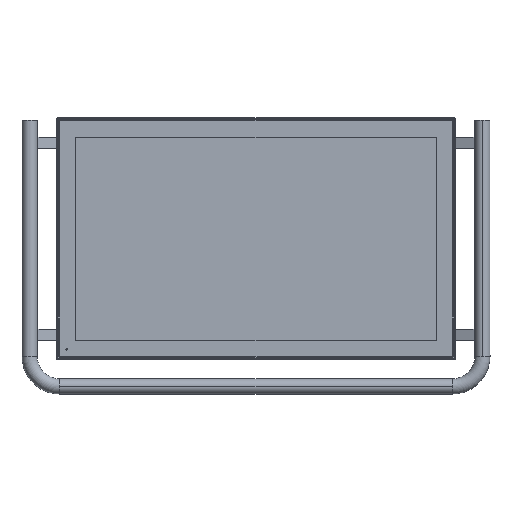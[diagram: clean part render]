
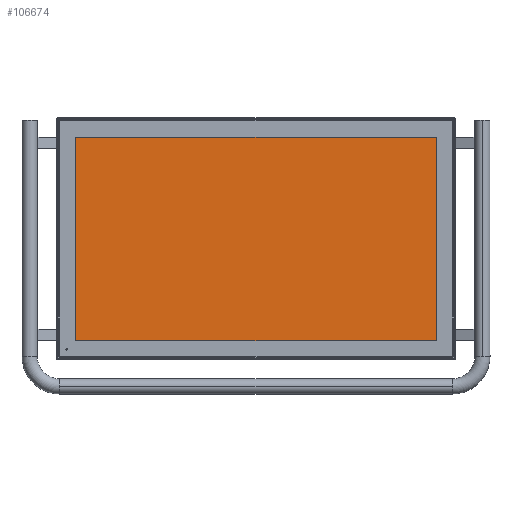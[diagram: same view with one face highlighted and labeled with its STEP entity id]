
A CAD part, top view. The second image highlights one B-rep face of the part: STEP entity #106674.
In plain terms, the highlighted planar face has unit normal (0, 0, 1) as drawn and (0, 1, 0) by its records, which use the part's own axes.
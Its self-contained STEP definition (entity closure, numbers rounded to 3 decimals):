
#577 = DIRECTION ( 'NONE',  ( 0., 0., 1. ) ) ;
#2332 = ORIENTED_EDGE ( 'NONE', *, *, #117453, .T. ) ;
#14828 = CARTESIAN_POINT ( 'NONE',  ( -238.92, 2.7, -134.655 ) ) ;
#16649 = EDGE_CURVE ( 'NONE', #85051, #41906, #135246, .T. ) ;
#27764 = CARTESIAN_POINT ( 'NONE',  ( 238.92, 2.7, 134.655 ) ) ;
#34998 = EDGE_CURVE ( 'NONE', #101965, #85051, #148779, .T. ) ;
#35187 = CARTESIAN_POINT ( 'NONE',  ( 238.92, 2.7, -134.655 ) ) ;
#38198 = CARTESIAN_POINT ( 'NONE',  ( 238.92, 2.7, -134.655 ) ) ;
#41906 = VERTEX_POINT ( 'NONE', #27764 ) ;
#42306 = CARTESIAN_POINT ( 'NONE',  ( -238.92, 2.7, -134.655 ) ) ;
#47449 = LINE ( 'NONE', #35187, #143417 ) ;
#50945 = ORIENTED_EDGE ( 'NONE', *, *, #168917, .T. ) ;
#61648 = VECTOR ( 'NONE', #95053, 1000. ) ;
#62006 = ORIENTED_EDGE ( 'NONE', *, *, #34998, .T. ) ;
#62179 = CARTESIAN_POINT ( 'NONE',  ( -238.92, 2.7, 134.655 ) ) ;
#64676 = VECTOR ( 'NONE', #171972, 1000. ) ;
#67493 = PLANE ( 'NONE',  #74484 ) ;
#69208 = FACE_OUTER_BOUND ( 'NONE', #150677, .T. ) ;
#74484 = AXIS2_PLACEMENT_3D ( 'NONE', #90725, #75912, #170104 ) ;
#75912 = DIRECTION ( 'NONE',  ( 0., 1., 0. ) ) ;
#76050 = LINE ( 'NONE', #103077, #64676 ) ;
#85051 = VERTEX_POINT ( 'NONE', #62179 ) ;
#90272 = VECTOR ( 'NONE', #577, 1000. ) ;
#90725 = CARTESIAN_POINT ( 'NONE',  ( 0., 2.7, 0. ) ) ;
#95053 = DIRECTION ( 'NONE',  ( 1., 0., 0. ) ) ;
#101965 = VERTEX_POINT ( 'NONE', #14828 ) ;
#103077 = CARTESIAN_POINT ( 'NONE',  ( 238.92, 2.7, 134.655 ) ) ;
#106674 = ADVANCED_FACE ( 'NONE', ( #69208 ), #67493, .T. ) ;
#110727 = CARTESIAN_POINT ( 'NONE',  ( -238.92, 2.7, 134.655 ) ) ;
#117453 = EDGE_CURVE ( 'NONE', #160289, #101965, #47449, .T. ) ;
#135246 = LINE ( 'NONE', #110727, #61648 ) ;
#143417 = VECTOR ( 'NONE', #155541, 1000. ) ;
#148779 = LINE ( 'NONE', #42306, #90272 ) ;
#150677 = EDGE_LOOP ( 'NONE', ( #162316, #50945, #2332, #62006 ) ) ;
#155541 = DIRECTION ( 'NONE',  ( -1., 0., 0. ) ) ;
#160289 = VERTEX_POINT ( 'NONE', #38198 ) ;
#162316 = ORIENTED_EDGE ( 'NONE', *, *, #16649, .T. ) ;
#168917 = EDGE_CURVE ( 'NONE', #41906, #160289, #76050, .T. ) ;
#170104 = DIRECTION ( 'NONE',  ( 1., 0., 0. ) ) ;
#171972 = DIRECTION ( 'NONE',  ( 0., 0., -1. ) ) ;
